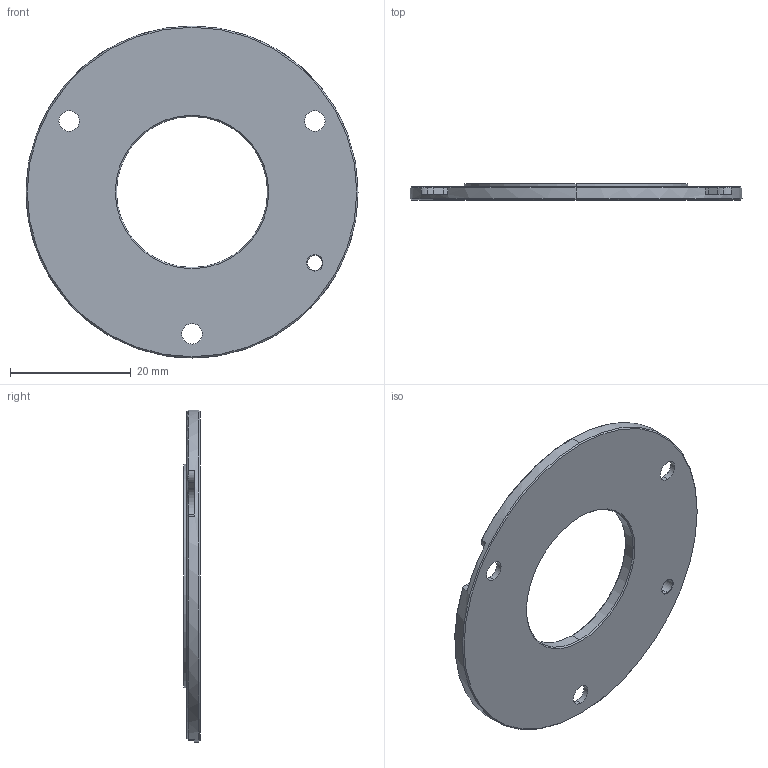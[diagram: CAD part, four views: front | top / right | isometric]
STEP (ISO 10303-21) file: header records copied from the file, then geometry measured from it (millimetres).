
FILE_DESCRIPTION (( 'STEP AP214' ), '1' );
FILE_NAME ('GRR-055-B11-AL.STEP', '2023-03-27T14:14:33', ( '' ), ( '' ), 'SwSTEP 2.0', 'SolidWorks 2021', '' );
FILE_SCHEMA (( 'AUTOMOTIVE_DESIGN' ));
Length unit declared in the file: millimetre
Products named in the file (1): GRR-055-B11-AL
Bounding box: 55 x 2.7 x 55 mm (x, y, z)
Volume: 4143.7 mm3; surface area: 5295.1 mm2
Topology: 2 solids, 2 shells, 76 faces, 181 edges, 111 vertices
Faces by surface type: cylinder 32, cone 23, plane 21
Entity records: 3115 total; most frequent: DIRECTION 422, CARTESIAN_POINT 387, ORIENTED_EDGE 362, EDGE_CURVE 181, AXIS2_PLACEMENT_3D 170, VERTEX_POINT 111, CIRCLE 93, EDGE_LOOP 90
